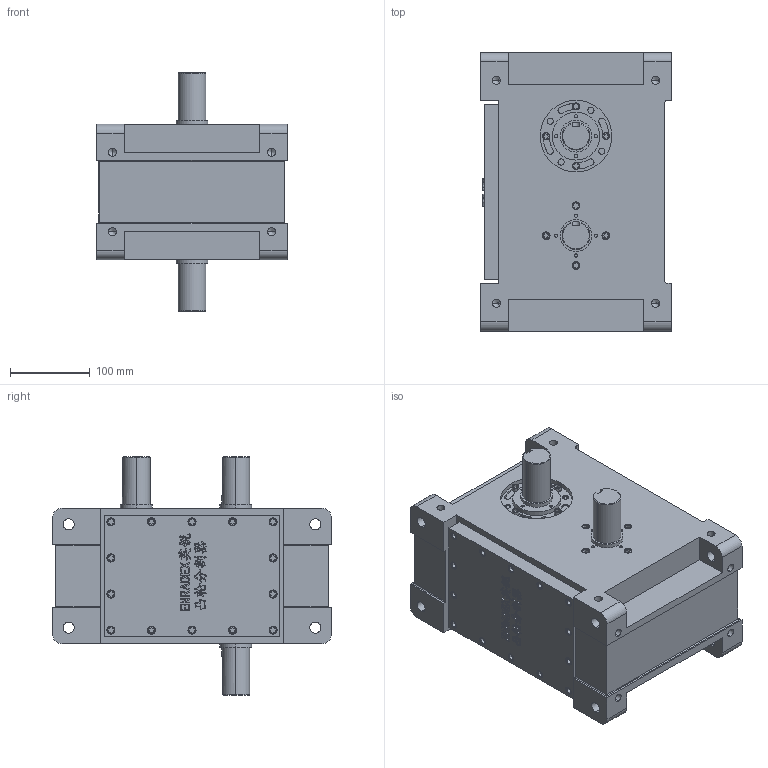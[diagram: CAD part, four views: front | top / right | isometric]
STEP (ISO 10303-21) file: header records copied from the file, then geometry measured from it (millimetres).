
FILE_DESCRIPTION (( 'STEP AP214' ), '1' );
FILE_NAME ('ER-PU125DS英锐凸轮分割器3D标准图纸(电话15062628977)A.STEP', '2022-10-27T08:48:59', ( '微软用户' ), ( '微软中国' ), 'SwSTEP 2.0', 'SolidWorks 2017', '' );
FILE_SCHEMA (( 'AUTOMOTIVE_DESIGN' ));
Length unit declared in the file: millimetre
Products named in the file (1): ER-PU125DS英锐凸轮分割器3D标准图纸(电话15062628977)A
Bounding box: 240 x 350 x 300 mm (x, y, z)
Volume: 12528184.2 mm3; surface area: 456194.6 mm2
Topology: 1 solids, 1 shells, 1056 faces, 2574 edges, 1666 vertices
Faces by surface type: plane 506, cylinder 300, bspline 209, cone 41
Entity records: 51583 total; most frequent: CARTESIAN_POINT 22060, ORIENTED_EDGE 5084, DIRECTION 4566, EDGE_CURVE 2542, VERTEX_POINT 1666, AXIS2_PLACEMENT_3D 1552, VECTOR 1462, LINE 1462
